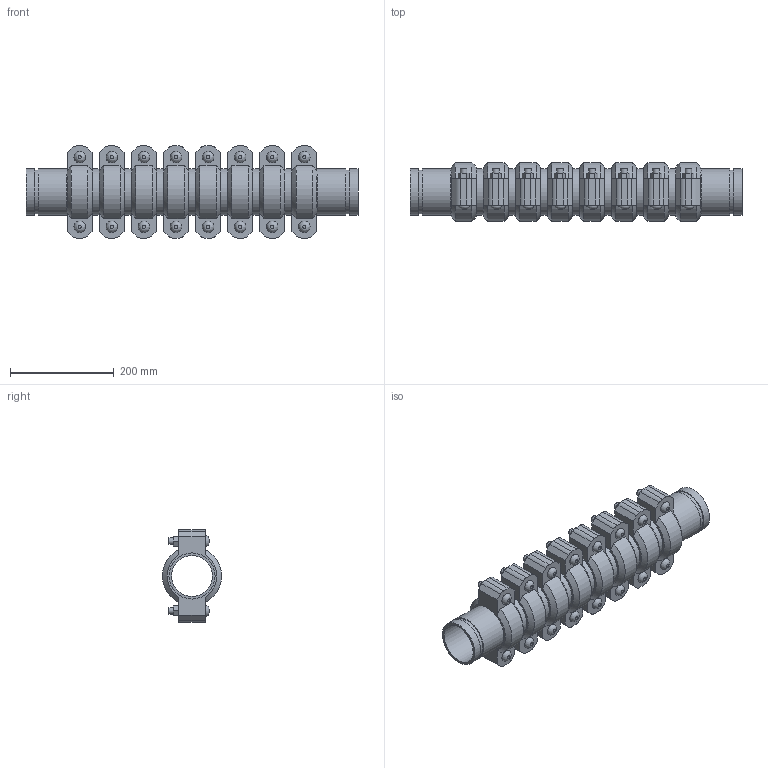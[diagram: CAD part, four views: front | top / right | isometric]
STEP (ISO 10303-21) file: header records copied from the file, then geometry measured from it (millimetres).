
FILE_DESCRIPTION(/* description */ ('VIC EXPANSION JOINT 8 COUPLINGS EXPANDED STYLE 155 (OGS)','CAx-IF Rec.Pracs.---Representation and Presentation of Product Manufacturing Information (PMI)---4.0---2014-10-13'),/* implementation_level */ '2;1');
FILE_NAME(/* name */ 'C:\Users\kkamble\AppData\Roaming\Autodesk\ApplicationPlugins\Victaulic.Temp\A413\Victaulic_IPS_Expansion Joint_Expanded_8 Couplings_Style 155 (OGS)_3 (80).stp',/* time_stamp */ '2021-06-27T00:09:05+02:00',/* author */ ('kkamble'),/* organization */ ('Victaulic'),/* preprocessor_version */ 'ST-DEVELOPER v17.2',/* originating_system */ 'Autodesk Inventor 2019',/* authorisation */ '');
FILE_SCHEMA (('AP242_MANAGED_MODEL_BASED_3D_ENGINEERING_MIM_LF { 1 0 10303 442 1 1 4 }'));
Length unit declared in the file: inch
Products named in the file (4): 155-03.0; Nipple-03.0; Nipple-03.0_1; 075-03.0
Assembly tree (17 placements, depth 2):
  155-03.0
    Nipple-03.0  x2
    Nipple-03.0_1  x7
    075-03.0  x8
Bounding box: 641.35 x 113.88 x 177.8 mm (x, y, z)
Volume: 3384807 mm3; surface area: 861136.8 mm2
Topology: 17 solids, 33 shells, 564 faces, 1334 edges, 936 vertices
Faces by surface type: plane 342, cylinder 174, cone 32, bspline 16
Full cylindrical faces by diameter (mm): 12.7 x32, 14.605 x16, 79.35 x9, 82.55 x8, 84.938 x18, 88.9 x43
Entity records: 2849 total; most frequent: CARTESIAN_POINT 501, DIRECTION 477, ORIENTED_EDGE 386, EDGE_CURVE 193, AXIS2_PLACEMENT_3D 192, VERTEX_POINT 138, EDGE_LOOP 107, LINE 93
